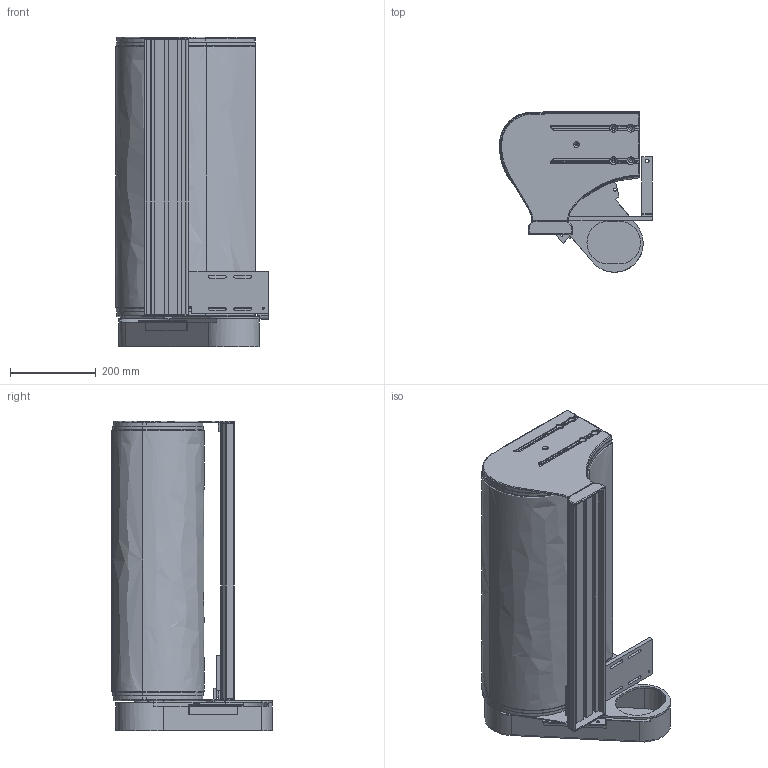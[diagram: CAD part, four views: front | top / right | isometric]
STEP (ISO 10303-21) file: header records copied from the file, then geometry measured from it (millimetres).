
FILE_DESCRIPTION (( 'STEP AP214' ), '1' );
FILE_NAME ('F2 2400 MSD20.step', '2017-04-05T07:33:23', ( '' ), ( '' ), 'SwSTEP 2.0', 'SolidWorks 2015', '' );
FILE_SCHEMA (( 'AUTOMOTIVE_DESIGN' ));
Length unit declared in the file: millimetre
Products named in the file (1): F2 2400 MSD20
Bounding box: 357.48 x 374.02 x 723 mm (x, y, z)
Volume: 39696745.5 mm3; surface area: 1432379 mm2
Topology: 8 solids, 8 shells, 821 faces, 2147 edges, 1318 vertices
Faces by surface type: cylinder 360, plane 271, torus 122, cone 40, bspline 28
Entity records: 27868 total; most frequent: CARTESIAN_POINT 7165, DIRECTION 4328, ORIENTED_EDGE 4238, EDGE_CURVE 2119, AXIS2_PLACEMENT_3D 1643, VERTEX_POINT 1318, LINE 1042, VECTOR 1042
